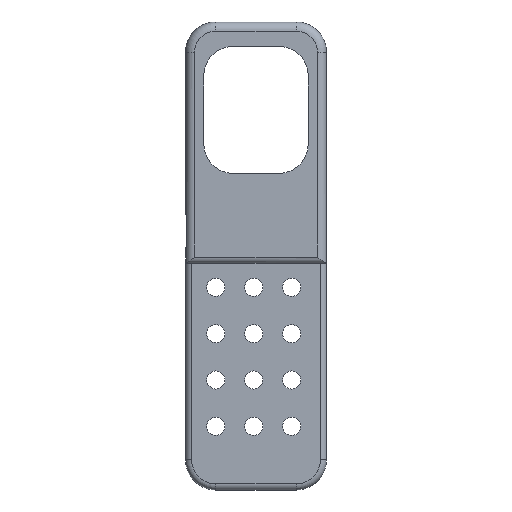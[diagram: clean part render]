
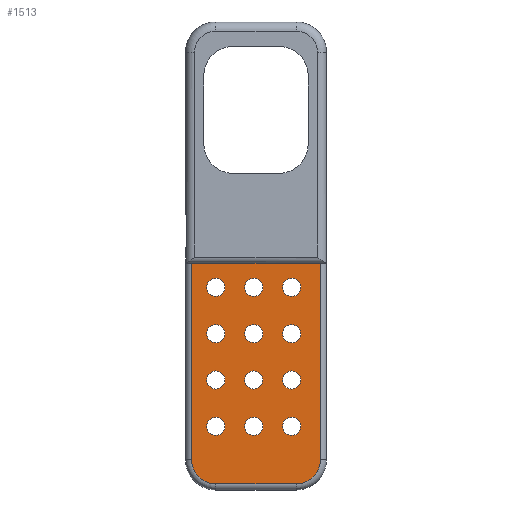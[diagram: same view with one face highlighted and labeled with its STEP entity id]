
A CAD part, top view. The second image highlights one B-rep face of the part: STEP entity #1513.
In plain terms, the highlighted planar face has unit normal (0, 0, 1).
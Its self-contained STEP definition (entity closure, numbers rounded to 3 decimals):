
#19=FACE_BOUND('',#191,.T.);
#20=FACE_BOUND('',#192,.T.);
#21=FACE_BOUND('',#193,.T.);
#22=FACE_BOUND('',#194,.T.);
#23=FACE_BOUND('',#195,.T.);
#24=FACE_BOUND('',#196,.T.);
#25=FACE_BOUND('',#197,.T.);
#26=FACE_BOUND('',#198,.T.);
#27=FACE_BOUND('',#199,.T.);
#28=FACE_BOUND('',#200,.T.);
#29=FACE_BOUND('',#201,.T.);
#30=FACE_BOUND('',#202,.T.);
#46=PLANE('',#1628);
#106=FACE_OUTER_BOUND('',#190,.T.);
#190=EDGE_LOOP('',(#1061,#1062,#1063,#1064,#1065,#1066));
#191=EDGE_LOOP('',(#1067));
#192=EDGE_LOOP('',(#1068));
#193=EDGE_LOOP('',(#1069));
#194=EDGE_LOOP('',(#1070));
#195=EDGE_LOOP('',(#1071));
#196=EDGE_LOOP('',(#1072));
#197=EDGE_LOOP('',(#1073));
#198=EDGE_LOOP('',(#1074));
#199=EDGE_LOOP('',(#1075));
#200=EDGE_LOOP('',(#1076));
#201=EDGE_LOOP('',(#1077));
#202=EDGE_LOOP('',(#1078));
#295=LINE('',#2237,#442);
#297=LINE('',#2253,#444);
#298=LINE('',#2268,#445);
#304=LINE('',#2283,#451);
#442=VECTOR('',#1772,10.);
#444=VECTOR('',#1790,10.);
#445=VECTOR('',#1807,10.);
#451=VECTOR('',#1823,10.);
#591=CIRCLE('',#1610,8.);
#597=CIRCLE('',#1618,8.);
#604=CIRCLE('',#1629,3.);
#605=CIRCLE('',#1630,3.);
#606=CIRCLE('',#1631,3.);
#607=CIRCLE('',#1632,3.);
#608=CIRCLE('',#1633,3.);
#609=CIRCLE('',#1634,3.);
#610=CIRCLE('',#1635,3.);
#611=CIRCLE('',#1636,3.);
#612=CIRCLE('',#1637,3.);
#613=CIRCLE('',#1638,3.);
#614=CIRCLE('',#1639,3.);
#615=CIRCLE('',#1640,3.);
#662=VERTEX_POINT('',#2230);
#665=VERTEX_POINT('',#2235);
#667=VERTEX_POINT('',#2240);
#671=VERTEX_POINT('',#2251);
#673=VERTEX_POINT('',#2256);
#677=VERTEX_POINT('',#2266);
#682=VERTEX_POINT('',#2284);
#683=VERTEX_POINT('',#2286);
#684=VERTEX_POINT('',#2288);
#685=VERTEX_POINT('',#2290);
#686=VERTEX_POINT('',#2292);
#687=VERTEX_POINT('',#2294);
#688=VERTEX_POINT('',#2296);
#689=VERTEX_POINT('',#2298);
#690=VERTEX_POINT('',#2300);
#691=VERTEX_POINT('',#2302);
#692=VERTEX_POINT('',#2304);
#693=VERTEX_POINT('',#2306);
#809=EDGE_CURVE('',#665,#662,#295,.T.);
#811=EDGE_CURVE('',#667,#665,#591,.T.);
#817=EDGE_CURVE('',#671,#667,#297,.T.);
#819=EDGE_CURVE('',#673,#671,#597,.T.);
#824=EDGE_CURVE('',#677,#673,#298,.T.);
#832=EDGE_CURVE('',#677,#662,#304,.T.);
#833=EDGE_CURVE('',#682,#682,#604,.T.);
#834=EDGE_CURVE('',#683,#683,#605,.T.);
#835=EDGE_CURVE('',#684,#684,#606,.T.);
#836=EDGE_CURVE('',#685,#685,#607,.T.);
#837=EDGE_CURVE('',#686,#686,#608,.T.);
#838=EDGE_CURVE('',#687,#687,#609,.T.);
#839=EDGE_CURVE('',#688,#688,#610,.T.);
#840=EDGE_CURVE('',#689,#689,#611,.T.);
#841=EDGE_CURVE('',#690,#690,#612,.T.);
#842=EDGE_CURVE('',#691,#691,#613,.T.);
#843=EDGE_CURVE('',#692,#692,#614,.T.);
#844=EDGE_CURVE('',#693,#693,#615,.T.);
#1061=ORIENTED_EDGE('',*,*,#824,.F.);
#1062=ORIENTED_EDGE('',*,*,#832,.T.);
#1063=ORIENTED_EDGE('',*,*,#809,.F.);
#1064=ORIENTED_EDGE('',*,*,#811,.F.);
#1065=ORIENTED_EDGE('',*,*,#817,.F.);
#1066=ORIENTED_EDGE('',*,*,#819,.F.);
#1067=ORIENTED_EDGE('',*,*,#833,.T.);
#1068=ORIENTED_EDGE('',*,*,#834,.T.);
#1069=ORIENTED_EDGE('',*,*,#835,.T.);
#1070=ORIENTED_EDGE('',*,*,#836,.T.);
#1071=ORIENTED_EDGE('',*,*,#837,.T.);
#1072=ORIENTED_EDGE('',*,*,#838,.T.);
#1073=ORIENTED_EDGE('',*,*,#839,.T.);
#1074=ORIENTED_EDGE('',*,*,#840,.T.);
#1075=ORIENTED_EDGE('',*,*,#841,.T.);
#1076=ORIENTED_EDGE('',*,*,#842,.T.);
#1077=ORIENTED_EDGE('',*,*,#843,.T.);
#1078=ORIENTED_EDGE('',*,*,#844,.T.);
#1513=ADVANCED_FACE('',(#106,#19,#20,#21,#22,#23,#24,#25,#26,#27,#28,#29,
#30),#46,.T.);
#1610=AXIS2_PLACEMENT_3D('',#2242,#1777,#1778);
#1618=AXIS2_PLACEMENT_3D('',#2258,#1795,#1796);
#1628=AXIS2_PLACEMENT_3D('',#2282,#1821,#1822);
#1629=AXIS2_PLACEMENT_3D('',#2285,#1824,#1825);
#1630=AXIS2_PLACEMENT_3D('',#2287,#1826,#1827);
#1631=AXIS2_PLACEMENT_3D('',#2289,#1828,#1829);
#1632=AXIS2_PLACEMENT_3D('',#2291,#1830,#1831);
#1633=AXIS2_PLACEMENT_3D('',#2293,#1832,#1833);
#1634=AXIS2_PLACEMENT_3D('',#2295,#1834,#1835);
#1635=AXIS2_PLACEMENT_3D('',#2297,#1836,#1837);
#1636=AXIS2_PLACEMENT_3D('',#2299,#1838,#1839);
#1637=AXIS2_PLACEMENT_3D('',#2301,#1840,#1841);
#1638=AXIS2_PLACEMENT_3D('',#2303,#1842,#1843);
#1639=AXIS2_PLACEMENT_3D('',#2305,#1844,#1845);
#1640=AXIS2_PLACEMENT_3D('',#2307,#1846,#1847);
#1772=DIRECTION('',(0.,1.,0.));
#1777=DIRECTION('center_axis',(0.,0.,-1.));
#1778=DIRECTION('ref_axis',(-0.707,-0.707,0.));
#1790=DIRECTION('',(-1.,0.,0.));
#1795=DIRECTION('center_axis',(0.,0.,-1.));
#1796=DIRECTION('ref_axis',(0.707,-0.707,0.));
#1807=DIRECTION('',(0.,-1.,0.));
#1821=DIRECTION('center_axis',(0.,0.,1.));
#1822=DIRECTION('ref_axis',(1.,0.,0.));
#1823=DIRECTION('',(-1.,0.,0.));
#1824=DIRECTION('center_axis',(0.,0.,-1.));
#1825=DIRECTION('ref_axis',(1.,0.,0.));
#1826=DIRECTION('center_axis',(0.,0.,-1.));
#1827=DIRECTION('ref_axis',(1.,0.,0.));
#1828=DIRECTION('center_axis',(0.,0.,-1.));
#1829=DIRECTION('ref_axis',(1.,0.,0.));
#1830=DIRECTION('center_axis',(0.,0.,-1.));
#1831=DIRECTION('ref_axis',(1.,0.,0.));
#1832=DIRECTION('center_axis',(0.,0.,-1.));
#1833=DIRECTION('ref_axis',(1.,0.,0.));
#1834=DIRECTION('center_axis',(0.,0.,-1.));
#1835=DIRECTION('ref_axis',(1.,0.,0.));
#1836=DIRECTION('center_axis',(0.,0.,-1.));
#1837=DIRECTION('ref_axis',(1.,0.,0.));
#1838=DIRECTION('center_axis',(0.,0.,-1.));
#1839=DIRECTION('ref_axis',(1.,0.,0.));
#1840=DIRECTION('center_axis',(0.,0.,-1.));
#1841=DIRECTION('ref_axis',(1.,0.,0.));
#1842=DIRECTION('center_axis',(0.,0.,-1.));
#1843=DIRECTION('ref_axis',(1.,0.,0.));
#1844=DIRECTION('center_axis',(0.,0.,-1.));
#1845=DIRECTION('ref_axis',(1.,0.,0.));
#1846=DIRECTION('center_axis',(0.,0.,-1.));
#1847=DIRECTION('ref_axis',(1.,0.,0.));
#2230=CARTESIAN_POINT('',(0.,-77.6,1.));
#2235=CARTESIAN_POINT('',(0.,-142.5,1.));
#2237=CARTESIAN_POINT('',(0.,-96.325,1.));
#2240=CARTESIAN_POINT('',(8.,-150.5,1.));
#2242=CARTESIAN_POINT('Origin',(8.,-142.5,1.));
#2251=CARTESIAN_POINT('',(34.5,-150.5,1.));
#2253=CARTESIAN_POINT('',(9.625,-150.5,1.));
#2256=CARTESIAN_POINT('',(42.5,-142.5,1.));
#2258=CARTESIAN_POINT('Origin',(34.5,-142.5,1.));
#2266=CARTESIAN_POINT('',(42.5,-77.6,1.));
#2268=CARTESIAN_POINT('',(42.5,-133.775,1.));
#2282=CARTESIAN_POINT('Origin',(21.25,-115.05,1.));
#2283=CARTESIAN_POINT('',(0.,-77.6,1.));
#2284=CARTESIAN_POINT('',(17.5,-100.9,1.));
#2285=CARTESIAN_POINT('Origin',(20.5,-100.9,1.));
#2286=CARTESIAN_POINT('',(30.,-131.5,1.));
#2287=CARTESIAN_POINT('Origin',(33.,-131.5,1.));
#2288=CARTESIAN_POINT('',(5.,-85.6,1.));
#2289=CARTESIAN_POINT('Origin',(8.,-85.6,1.));
#2290=CARTESIAN_POINT('',(5.,-131.5,1.));
#2291=CARTESIAN_POINT('Origin',(8.,-131.5,1.));
#2292=CARTESIAN_POINT('',(30.,-85.6,1.));
#2293=CARTESIAN_POINT('Origin',(33.,-85.6,1.));
#2294=CARTESIAN_POINT('',(30.,-100.9,1.));
#2295=CARTESIAN_POINT('Origin',(33.,-100.9,1.));
#2296=CARTESIAN_POINT('',(17.5,-85.6,1.));
#2297=CARTESIAN_POINT('Origin',(20.5,-85.6,1.));
#2298=CARTESIAN_POINT('',(30.,-116.2,1.));
#2299=CARTESIAN_POINT('Origin',(33.,-116.2,1.));
#2300=CARTESIAN_POINT('',(5.,-116.2,1.));
#2301=CARTESIAN_POINT('Origin',(8.,-116.2,1.));
#2302=CARTESIAN_POINT('',(17.5,-116.2,1.));
#2303=CARTESIAN_POINT('Origin',(20.5,-116.2,1.));
#2304=CARTESIAN_POINT('',(17.5,-131.5,1.));
#2305=CARTESIAN_POINT('Origin',(20.5,-131.5,1.));
#2306=CARTESIAN_POINT('',(5.,-100.9,1.));
#2307=CARTESIAN_POINT('Origin',(8.,-100.9,1.));
